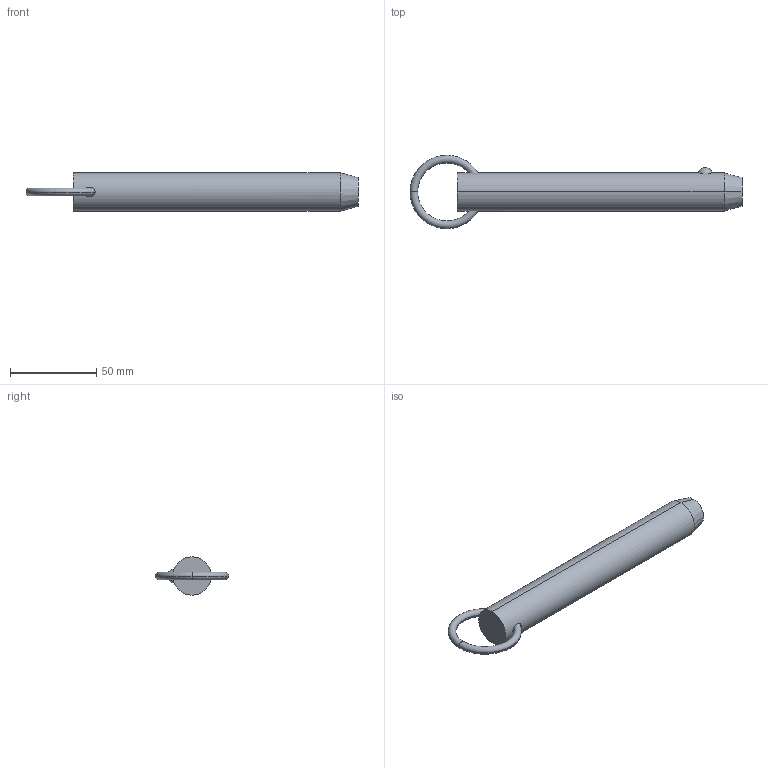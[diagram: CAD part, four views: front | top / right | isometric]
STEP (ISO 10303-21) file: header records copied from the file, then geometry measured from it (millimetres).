
FILE_DESCRIPTION (( 'STEP AP203' ), '1' );
FILE_NAME ('33010.W8850.step', '2024-11-01T10:46:20', ( '' ), ( '' ), 'SwSTEP 2.0', 'SolidWorks 2019', '' );
FILE_SCHEMA (( 'CONFIG_CONTROL_DESIGN' ));
Length unit declared in the file: millimetre
Products named in the file (3): Part1_33010.W8850; Part2_33010.W8850; 33010.W8850
Assembly tree (2 placements, depth 2):
  33010.W8850
    Part1_33010.W8850
    Part2_33010.W8850
Bounding box: 192.46 x 42.55 x 22.23 mm (x, y, z)
Volume: 64547 mm3; surface area: 14125.2 mm2
Topology: 2 solids, 2 shells, 16 faces, 31 edges, 18 vertices
Faces by surface type: torus 8, sphere 2, cone 2, cylinder 2, plane 2
Entity records: 903 total; most frequent: CARTESIAN_POINT 260, DIRECTION 88, ORIENTED_EDGE 62, AXIS2_PLACEMENT_3D 42, EDGE_CURVE 31, PERSON_AND_ORGANIZATION 26, CIRCLE 21, COORDINATED_UNIVERSAL_TIME_OFFSET 19
